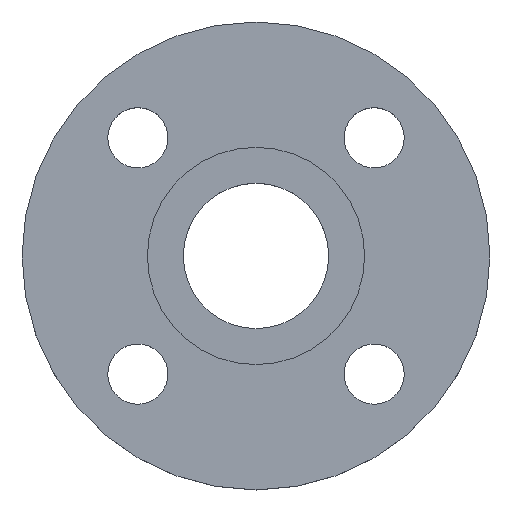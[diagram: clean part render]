
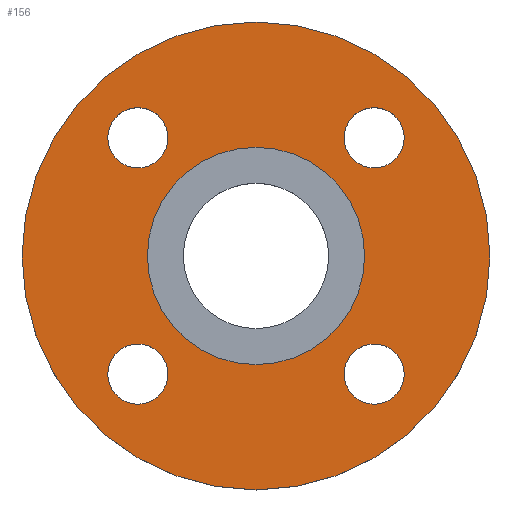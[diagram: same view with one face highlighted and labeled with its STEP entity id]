
A CAD part, top view. The second image highlights one B-rep face of the part: STEP entity #156.
In plain terms, the highlighted planar face has unit normal (0, 0, 1).
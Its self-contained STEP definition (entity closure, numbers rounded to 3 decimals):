
#4 = DIRECTION ( 'NONE',  ( 0., 0., -1. ) ) ;
#12 = DIRECTION ( 'NONE',  ( 0., 0., -1. ) ) ;
#25 = DIRECTION ( 'NONE',  ( -1., 0., 0. ) ) ;
#27 = EDGE_LOOP ( 'NONE', ( #94, #157 ) ) ;
#30 = FACE_BOUND ( 'NONE', #27, .T. ) ;
#31 = VERTEX_POINT ( 'NONE', #222 ) ;
#33 = CARTESIAN_POINT ( 'NONE',  ( 32.5, 0., -4.5 ) ) ;
#37 = ORIENTED_EDGE ( 'NONE', *, *, #471, .T. ) ;
#52 = EDGE_CURVE ( 'NONE', #193, #589, #580, .T. ) ;
#53 = AXIS2_PLACEMENT_3D ( 'NONE', #188, #372, #556 ) ;
#68 = CIRCLE ( 'NONE', #138, 9. ) ;
#82 = ORIENTED_EDGE ( 'NONE', *, *, #91, .T. ) ;
#91 = EDGE_CURVE ( 'NONE', #569, #31, #496, .T. ) ;
#92 = DIRECTION ( 'NONE',  ( 0., 0., -1. ) ) ;
#93 = AXIS2_PLACEMENT_3D ( 'NONE', #185, #370, #555 ) ;
#94 = ORIENTED_EDGE ( 'NONE', *, *, #485, .T. ) ;
#95 = CARTESIAN_POINT ( 'NONE',  ( -35.355, 35.355, -4.5 ) ) ;
#97 = CIRCLE ( 'NONE', #427, 9. ) ;
#98 = AXIS2_PLACEMENT_3D ( 'NONE', #572, #161, #343 ) ;
#104 = DIRECTION ( 'NONE',  ( -1., 0., 0. ) ) ;
#106 = CARTESIAN_POINT ( 'NONE',  ( -35.355, -35.355, -4.5 ) ) ;
#110 = CARTESIAN_POINT ( 'NONE',  ( -35.355, -35.355, -4.5 ) ) ;
#115 = CIRCLE ( 'NONE', #454, 9. ) ;
#121 = VERTEX_POINT ( 'NONE', #506 ) ;
#130 = EDGE_CURVE ( 'NONE', #438, #441, #564, .T. ) ;
#134 = DIRECTION ( 'NONE',  ( 0., 0., -1. ) ) ;
#135 = CIRCLE ( 'NONE', #469, 32.5 ) ;
#138 = AXIS2_PLACEMENT_3D ( 'NONE', #110, #291, #478 ) ;
#144 = VERTEX_POINT ( 'NONE', #453 ) ;
#153 = ORIENTED_EDGE ( 'NONE', *, *, #130, .T. ) ;
#156 = ADVANCED_FACE ( 'NONE', ( #179, #362, #545, #436, #30, #205 ), #392, .T. ) ;
#157 = ORIENTED_EDGE ( 'NONE', *, *, #325, .T. ) ;
#161 = DIRECTION ( 'NONE',  ( 0., 0., 1. ) ) ;
#166 = CARTESIAN_POINT ( 'NONE',  ( 26.355, 35.355, -4.5 ) ) ;
#177 = EDGE_LOOP ( 'NONE', ( #359, #153 ) ) ;
#179 = FACE_BOUND ( 'NONE', #379, .T. ) ;
#184 = DIRECTION ( 'NONE',  ( 1., 0., 0. ) ) ;
#185 = CARTESIAN_POINT ( 'NONE',  ( 0., 0., -4.5 ) ) ;
#188 = CARTESIAN_POINT ( 'NONE',  ( 35.355, -35.355, -4.5 ) ) ;
#189 = DIRECTION ( 'NONE',  ( 1., 0., 0. ) ) ;
#193 = VERTEX_POINT ( 'NONE', #577 ) ;
#194 = CARTESIAN_POINT ( 'NONE',  ( -35.355, 35.355, -4.5 ) ) ;
#202 = EDGE_LOOP ( 'NONE', ( #296, #82 ) ) ;
#205 = FACE_OUTER_BOUND ( 'NONE', #393, .T. ) ;
#212 = ORIENTED_EDGE ( 'NONE', *, *, #280, .F. ) ;
#219 = AXIS2_PLACEMENT_3D ( 'NONE', #245, #430, #25 ) ;
#222 = CARTESIAN_POINT ( 'NONE',  ( 44.355, 35.355, -4.5 ) ) ;
#229 = AXIS2_PLACEMENT_3D ( 'NONE', #548, #134, #318 ) ;
#236 = CARTESIAN_POINT ( 'NONE',  ( -26.355, -35.355, -4.5 ) ) ;
#238 = CARTESIAN_POINT ( 'NONE',  ( -44.355, 35.355, -4.5 ) ) ;
#245 = CARTESIAN_POINT ( 'NONE',  ( 0., 0., -4.5 ) ) ;
#269 = DIRECTION ( 'NONE',  ( -1., 0., 0. ) ) ;
#270 = EDGE_CURVE ( 'NONE', #407, #121, #115, .T. ) ;
#272 = DIRECTION ( 'NONE',  ( 0., 0., -1. ) ) ;
#276 = CIRCLE ( 'NONE', #355, 9. ) ;
#280 = EDGE_CURVE ( 'NONE', #589, #193, #342, .T. ) ;
#286 = DIRECTION ( 'NONE',  ( 0., 0., -1. ) ) ;
#291 = DIRECTION ( 'NONE',  ( 0., 0., -1. ) ) ;
#296 = ORIENTED_EDGE ( 'NONE', *, *, #312, .T. ) ;
#303 = ORIENTED_EDGE ( 'NONE', *, *, #270, .T. ) ;
#308 = AXIS2_PLACEMENT_3D ( 'NONE', #95, #272, #357 ) ;
#312 = EDGE_CURVE ( 'NONE', #31, #569, #576, .T. ) ;
#316 = AXIS2_PLACEMENT_3D ( 'NONE', #420, #12, #189 ) ;
#318 = DIRECTION ( 'NONE',  ( 1., 0., 0. ) ) ;
#325 = EDGE_CURVE ( 'NONE', #547, #412, #135, .T. ) ;
#329 = CARTESIAN_POINT ( 'NONE',  ( 0., 0., -4.5 ) ) ;
#331 = CARTESIAN_POINT ( 'NONE',  ( 44.355, -35.355, -4.5 ) ) ;
#336 = VERTEX_POINT ( 'NONE', #236 ) ;
#342 = CIRCLE ( 'NONE', #93, 70. ) ;
#343 = DIRECTION ( 'NONE',  ( 1., 0., 0. ) ) ;
#344 = EDGE_LOOP ( 'NONE', ( #570, #37 ) ) ;
#346 = CARTESIAN_POINT ( 'NONE',  ( 70., 0., -4.5 ) ) ;
#355 = AXIS2_PLACEMENT_3D ( 'NONE', #106, #286, #472 ) ;
#357 = DIRECTION ( 'NONE',  ( 1., 0., 0. ) ) ;
#359 = ORIENTED_EDGE ( 'NONE', *, *, #457, .T. ) ;
#362 = FACE_BOUND ( 'NONE', #344, .T. ) ;
#370 = DIRECTION ( 'NONE',  ( 0., 0., -1. ) ) ;
#372 = DIRECTION ( 'NONE',  ( 0., 0., -1. ) ) ;
#374 = EDGE_CURVE ( 'NONE', #121, #407, #561, .T. ) ;
#379 = EDGE_LOOP ( 'NONE', ( #303, #505 ) ) ;
#380 = DIRECTION ( 'NONE',  ( 0., 0., -1. ) ) ;
#392 = PLANE ( 'NONE',  #98 ) ;
#393 = EDGE_LOOP ( 'NONE', ( #212, #455 ) ) ;
#407 = VERTEX_POINT ( 'NONE', #331 ) ;
#409 = CARTESIAN_POINT ( 'NONE',  ( 35.355, -35.355, -4.5 ) ) ;
#412 = VERTEX_POINT ( 'NONE', #519 ) ;
#420 = CARTESIAN_POINT ( 'NONE',  ( 35.355, 35.355, -4.5 ) ) ;
#424 = CARTESIAN_POINT ( 'NONE',  ( -26.355, 35.355, -4.5 ) ) ;
#427 = AXIS2_PLACEMENT_3D ( 'NONE', #194, #380, #562 ) ;
#430 = DIRECTION ( 'NONE',  ( 0., 0., -1. ) ) ;
#435 = EDGE_CURVE ( 'NONE', #336, #144, #276, .T. ) ;
#436 = FACE_BOUND ( 'NONE', #202, .T. ) ;
#438 = VERTEX_POINT ( 'NONE', #238 ) ;
#441 = VERTEX_POINT ( 'NONE', #424 ) ;
#444 = AXIS2_PLACEMENT_3D ( 'NONE', #503, #92, #269 ) ;
#453 = CARTESIAN_POINT ( 'NONE',  ( -44.355, -35.355, -4.5 ) ) ;
#454 = AXIS2_PLACEMENT_3D ( 'NONE', #409, #4, #184 ) ;
#455 = ORIENTED_EDGE ( 'NONE', *, *, #52, .F. ) ;
#457 = EDGE_CURVE ( 'NONE', #441, #438, #97, .T. ) ;
#469 = AXIS2_PLACEMENT_3D ( 'NONE', #329, #517, #104 ) ;
#471 = EDGE_CURVE ( 'NONE', #144, #336, #68, .T. ) ;
#472 = DIRECTION ( 'NONE',  ( 1., 0., 0. ) ) ;
#478 = DIRECTION ( 'NONE',  ( 1., 0., 0. ) ) ;
#479 = CIRCLE ( 'NONE', #219, 32.5 ) ;
#485 = EDGE_CURVE ( 'NONE', #412, #547, #479, .T. ) ;
#496 = CIRCLE ( 'NONE', #229, 9. ) ;
#503 = CARTESIAN_POINT ( 'NONE',  ( 0., 0., -4.5 ) ) ;
#505 = ORIENTED_EDGE ( 'NONE', *, *, #374, .T. ) ;
#506 = CARTESIAN_POINT ( 'NONE',  ( 26.355, -35.355, -4.5 ) ) ;
#517 = DIRECTION ( 'NONE',  ( 0., 0., -1. ) ) ;
#519 = CARTESIAN_POINT ( 'NONE',  ( -32.5, 0., -4.5 ) ) ;
#545 = FACE_BOUND ( 'NONE', #177, .T. ) ;
#547 = VERTEX_POINT ( 'NONE', #33 ) ;
#548 = CARTESIAN_POINT ( 'NONE',  ( 35.355, 35.355, -4.5 ) ) ;
#555 = DIRECTION ( 'NONE',  ( -1., 0., 0. ) ) ;
#556 = DIRECTION ( 'NONE',  ( 1., 0., 0. ) ) ;
#561 = CIRCLE ( 'NONE', #53, 9. ) ;
#562 = DIRECTION ( 'NONE',  ( 1., 0., 0. ) ) ;
#564 = CIRCLE ( 'NONE', #308, 9. ) ;
#569 = VERTEX_POINT ( 'NONE', #166 ) ;
#570 = ORIENTED_EDGE ( 'NONE', *, *, #435, .T. ) ;
#572 = CARTESIAN_POINT ( 'NONE',  ( 32.5, 0., -4.5 ) ) ;
#576 = CIRCLE ( 'NONE', #316, 9. ) ;
#577 = CARTESIAN_POINT ( 'NONE',  ( -70., 0., -4.5 ) ) ;
#580 = CIRCLE ( 'NONE', #444, 70. ) ;
#589 = VERTEX_POINT ( 'NONE', #346 ) ;
